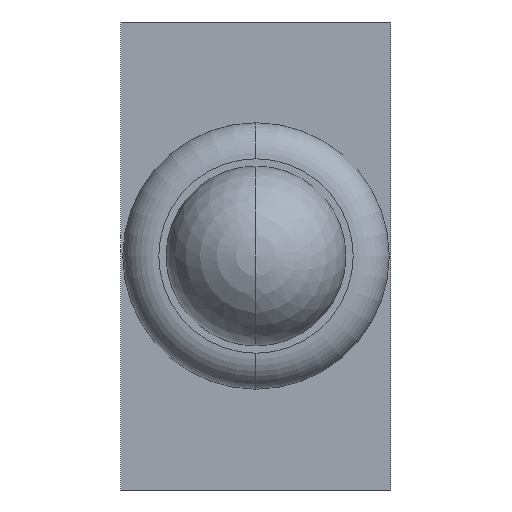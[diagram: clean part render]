
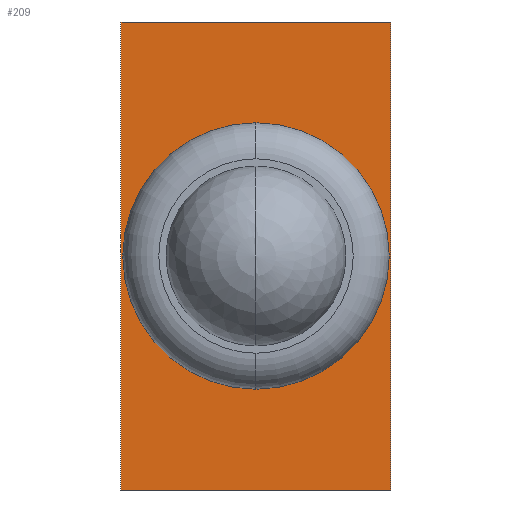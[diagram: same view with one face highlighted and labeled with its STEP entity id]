
A CAD part, left-side view. The second image highlights one B-rep face of the part: STEP entity #209.
In plain terms, the highlighted planar face has unit normal (-1, 0, 0).
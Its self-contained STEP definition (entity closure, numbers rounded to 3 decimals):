
#1=CARTESIAN_POINT('',(0.,0.,0.));
#2=DIRECTION('',(1.,0.,0.));
#3=DIRECTION('',(0.,0.,-1.));
#4=AXIS2_PLACEMENT_3D('',#1,#2,#3);
#6=DIRECTION('',(0.,0.,1.));
#7=VECTOR('',#6,2.6);
#8=CARTESIAN_POINT('',(0.,0.75,-1.3));
#9=LINE('',#8,#7);
#10=DIRECTION('',(0.,-1.,0.));
#11=VECTOR('',#10,1.5);
#12=CARTESIAN_POINT('',(0.,0.75,1.3));
#13=LINE('',#12,#11);
#14=DIRECTION('',(0.,0.,-1.));
#15=VECTOR('',#14,2.6);
#16=CARTESIAN_POINT('',(0.,-0.75,1.3));
#17=LINE('',#16,#15);
#18=DIRECTION('',(0.,1.,0.));
#19=VECTOR('',#18,1.5);
#20=CARTESIAN_POINT('',(0.,-0.75,-1.3));
#21=LINE('',#20,#19);
#54=CARTESIAN_POINT('',(0.,0.,0.));
#55=DIRECTION('',(1.,0.,0.));
#56=DIRECTION('',(0.,0.,1.));
#57=AXIS2_PLACEMENT_3D('',#54,#55,#56);
#153=CARTESIAN_POINT('',(0.,0.75,-1.3));
#154=CARTESIAN_POINT('',(0.,0.75,1.3));
#155=VERTEX_POINT('',#153);
#156=VERTEX_POINT('',#154);
#157=CARTESIAN_POINT('',(0.,-0.75,1.3));
#158=VERTEX_POINT('',#157);
#159=CARTESIAN_POINT('',(0.,-0.75,-1.3));
#160=VERTEX_POINT('',#159);
#169=CARTESIAN_POINT('',(0.,0.,-0.74));
#170=CARTESIAN_POINT('',(0.,0.,0.74));
#171=VERTEX_POINT('',#169);
#172=VERTEX_POINT('',#170);
#189=CARTESIAN_POINT('',(0.,0.,0.));
#190=DIRECTION('',(1.,0.,0.));
#191=DIRECTION('',(0.,-1.,0.));
#192=AXIS2_PLACEMENT_3D('',#189,#190,#191);
#193=PLANE('',#192);
#195=ORIENTED_EDGE('',*,*,#194,.T.);
#197=ORIENTED_EDGE('',*,*,#196,.T.);
#199=ORIENTED_EDGE('',*,*,#198,.T.);
#201=ORIENTED_EDGE('',*,*,#200,.T.);
#202=EDGE_LOOP('',(#195,#197,#199,#201));
#203=FACE_OUTER_BOUND('',#202,.F.);
#204=ORIENTED_EDGE('',*,*,#178,.F.);
#206=ORIENTED_EDGE('',*,*,#205,.F.);
#207=EDGE_LOOP('',(#204,#206));
#208=FACE_BOUND('',#207,.F.);
#209=ADVANCED_FACE('',(#203,#208),#193,.F.);
#5=CIRCLE('',#4,0.74);
#58=CIRCLE('',#57,0.74);
#178=EDGE_CURVE('',#171,#172,#5,.T.);
#194=EDGE_CURVE('',#155,#156,#9,.T.);
#196=EDGE_CURVE('',#156,#158,#13,.T.);
#198=EDGE_CURVE('',#158,#160,#17,.T.);
#200=EDGE_CURVE('',#160,#155,#21,.T.);
#205=EDGE_CURVE('',#172,#171,#58,.T.);
